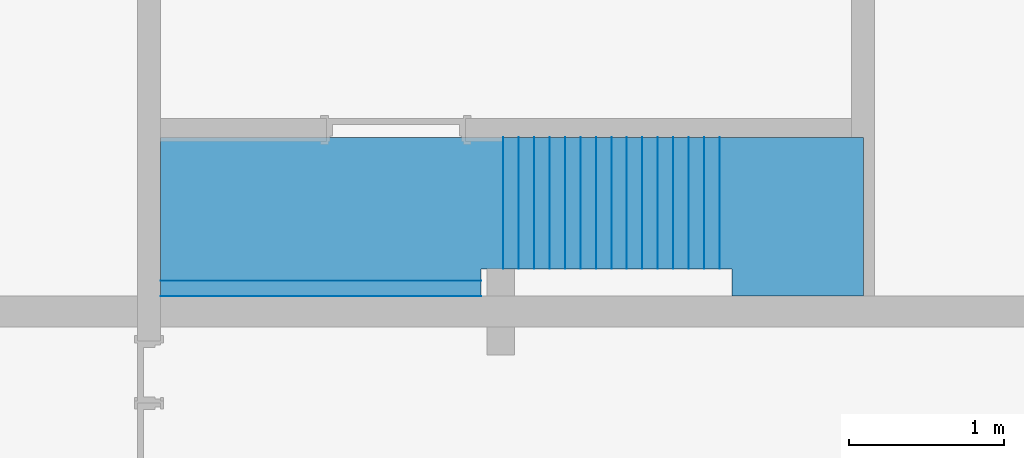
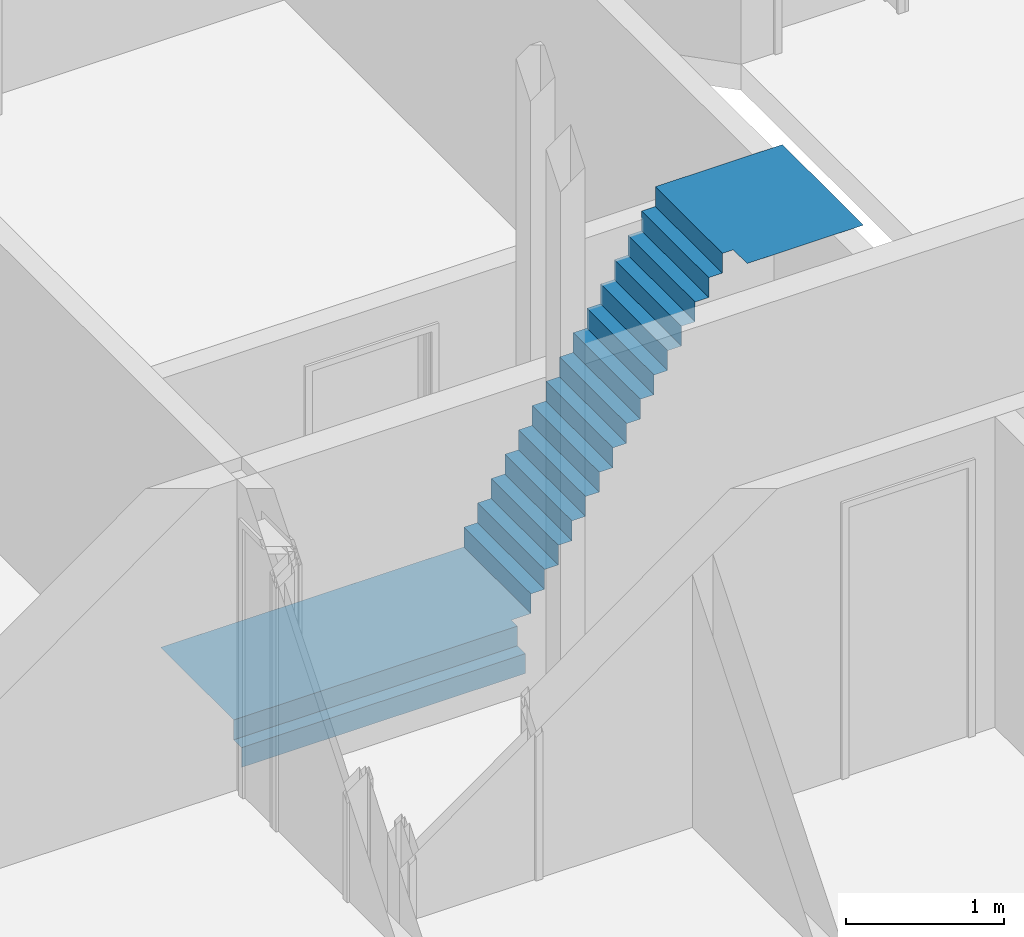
# One storey, part 34 of 48: 61 building element parts, 2 elements without a shape of their own.
"""IFC2X3 building model written with IfcOpenShell, lengths in millimetres."""

from ifc_helpers import new_model, entity, si_unit, converted_unit, derived_unit, money_unit, direction, frame, origin_with_axes, place, context, subcontext, project, spatial, open_shell, surface_model, element, aggregate, save


model = new_model("IFC2X3")

# Units and contexts
model_context = context("Model", 3, precision=0.01, world=origin_with_axes(), true_north=direction((0.0, 1.0)))
body_context = subcontext(model_context, "Body", "Model", "MODEL_VIEW")
ifc_project = project(units=[si_unit("LENGTHUNIT", "METRE", prefix="MILLI"), si_unit("AREAUNIT", "SQUARE_METRE"), si_unit("VOLUMEUNIT", "CUBIC_METRE"), converted_unit("PLANEANGLEUNIT", "DEGREE", entity("IfcPlaneAngleMeasure", 0.0174532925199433), si_unit("PLANEANGLEUNIT", "RADIAN"), dimensions=[0, 0, 0, 0, 0, 0, 0]), money_unit("USD"), converted_unit("TIMEUNIT", "Year", entity("IfcTimeMeasure", 31557600.0), si_unit("TIMEUNIT", "SECOND"), dimensions=[0, 0, 1, 0, 0, 0, 0]), si_unit("MASSUNIT", "GRAM", prefix="KILO"), si_unit("THERMODYNAMICTEMPERATUREUNIT", "DEGREE_CELSIUS"), si_unit("LUMINOUSINTENSITYUNIT", "LUMEN"), si_unit("ENERGYUNIT", "JOULE", prefix="MEGA"), derived_unit("THERMALCONDUCTANCEUNIT", [(si_unit("POWERUNIT", "WATT"), 1), (si_unit("LENGTHUNIT", "METRE"), -1), (si_unit("THERMODYNAMICTEMPERATUREUNIT", "KELVIN"), -1)]), derived_unit("SPECIFICHEATCAPACITYUNIT", [(si_unit("ENERGYUNIT", "JOULE"), 1), (si_unit("MASSUNIT", "GRAM", prefix="KILO"), -1), (si_unit("THERMODYNAMICTEMPERATUREUNIT", "KELVIN"), -1)]), derived_unit("MASSDENSITYUNIT", [(si_unit("MASSUNIT", "GRAM", prefix="KILO"), 1), (si_unit("VOLUMEUNIT", "CUBIC_METRE"), -1)])], contexts=[model_context])

# Site, building, storey
site_placement = place(None, origin_with_axes())
site = spatial("IfcSite", under=ifc_project, at=site_placement, Name="Site", CompositionType="ELEMENT")
building_placement = place(site_placement, origin_with_axes())
building = spatial("IfcBuilding", under=site, at=building_placement, Name="Building", CompositionType="ELEMENT")
storey_placement = place(building_placement, frame((0.0, 0.0, 3300.0), z_axis=(0.0, 0.0, 1.0), x_axis=(1.0, 0.0, 0.0)))
storey = spatial("IfcBuildingStorey", under=building, at=storey_placement, Name="1 ETG", CompositionType="ELEMENT", Elevation=3300.0)

# Stair, building element parts
stair_1_placement = place(storey_placement, frame((19494.96070329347, 14599.87497638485, 0.0), z_axis=(0.0, 0.0, 1.0), x_axis=(1.0, 0.0, 0.0)))
stair_1 = element("IfcStair", 1, at=stair_1_placement, inside=storey, Name="STAIR - 001", ShapeType="NOTDEFINED")
building_element_part_1_placement = place(stair_1_placement, origin_with_axes())
building_element_part_1 = element("IfcBuildingElementPart", 2, at=building_element_part_1_placement, context=body_context, shape_type="SurfaceModel", body=[
    surface_model("IfcShellBasedSurfaceModel", [(-1478.890909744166, 1025.673860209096, 458.8235294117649), (-1478.890909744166, 175.6738602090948, 458.8235294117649), (-1478.890909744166, 175.6738602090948, 305.8823529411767), (-1478.890909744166, 1025.673860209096, 305.8823529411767)], [open_shell([[[0, 1, 2, 3]]])]),
])
building_element_part_2_placement = place(stair_1_placement, origin_with_axes())
building_element_part_2 = element("IfcBuildingElementPart", 3, at=building_element_part_2_placement, context=body_context, shape_type="SurfaceModel", body=[
    surface_model("IfcShellBasedSurfaceModel", [(-1378.890909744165, 1025.673860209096, 611.764705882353), (-1378.890909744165, 175.6738602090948, 611.764705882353), (-1378.890909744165, 175.6738602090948, 458.8235294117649), (-1378.890909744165, 1025.673860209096, 458.8235294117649)], [open_shell([[[0, 1, 2, 3]]])]),
])
building_element_part_3_placement = place(stair_1_placement, origin_with_axes())
building_element_part_3 = element("IfcBuildingElementPart", 4, at=building_element_part_3_placement, context=body_context, shape_type="SurfaceModel", body=[
    surface_model("IfcShellBasedSurfaceModel", [(-1278.890909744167, 1025.673860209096, 764.705882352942), (-1278.890909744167, 175.6738602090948, 764.705882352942), (-1278.890909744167, 175.6738602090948, 611.7647058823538), (-1278.890909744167, 1025.673860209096, 611.7647058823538)], [open_shell([[[0, 1, 2, 3]]])]),
])
building_element_part_4_placement = place(stair_1_placement, origin_with_axes())
building_element_part_4 = element("IfcBuildingElementPart", 5, at=building_element_part_4_placement, context=body_context, shape_type="SurfaceModel", body=[
    surface_model("IfcShellBasedSurfaceModel", [(-1078.890909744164, 1025.673860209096, 1070.588235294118), (-1078.890909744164, 175.6738602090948, 1070.588235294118), (-1078.890909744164, 175.6738602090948, 917.6470588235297), (-1078.890909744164, 1025.673860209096, 917.6470588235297)], [open_shell([[[0, 1, 2, 3]]])]),
])
building_element_part_5_placement = place(stair_1_placement, origin_with_axes())
building_element_part_5 = element("IfcBuildingElementPart", 6, at=building_element_part_5_placement, context=body_context, shape_type="SurfaceModel", body=[
    surface_model("IfcShellBasedSurfaceModel", [(-1178.890909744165, 1025.673860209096, 917.6470588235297), (-1178.890909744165, 175.6738602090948, 917.6470588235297), (-1178.890909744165, 175.6738602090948, 764.7058823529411), (-1178.890909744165, 1025.673860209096, 764.7058823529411)], [open_shell([[[0, 1, 2, 3]]])]),
])
building_element_part_6_placement = place(stair_1_placement, origin_with_axes())
building_element_part_6 = element("IfcBuildingElementPart", 7, at=building_element_part_6_placement, context=body_context, shape_type="SurfaceModel", body=[
    surface_model("IfcShellBasedSurfaceModel", [(-978.8909097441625, 1025.673860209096, 1223.529411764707), (-978.8909097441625, 175.6738602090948, 1223.529411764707), (-978.8909097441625, 175.6738602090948, 1070.588235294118), (-978.8909097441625, 1025.673860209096, 1070.588235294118)], [open_shell([[[0, 1, 2, 3]]])]),
])
building_element_part_7_placement = place(stair_1_placement, origin_with_axes())
building_element_part_7 = element("IfcBuildingElementPart", 8, at=building_element_part_7_placement, context=body_context, shape_type="SurfaceModel", body=[
    surface_model("IfcShellBasedSurfaceModel", [(-878.8909097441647, 1025.673860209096, 1376.470588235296), (-878.8909097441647, 175.6738602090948, 1376.470588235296), (-878.8909097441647, 175.6738602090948, 1223.529411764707), (-878.8909097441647, 1025.673860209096, 1223.529411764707)], [open_shell([[[0, 1, 2, 3]]])]),
])
building_element_part_8_placement = place(stair_1_placement, origin_with_axes())
building_element_part_8 = element("IfcBuildingElementPart", 9, at=building_element_part_8_placement, context=body_context, shape_type="SurfaceModel", body=[
    surface_model("IfcShellBasedSurfaceModel", [(-678.8909097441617, 1025.673860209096, 1682.352941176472), (-678.8909097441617, 175.6738602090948, 1682.352941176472), (-678.8909097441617, 175.6738602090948, 1529.411764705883), (-678.8909097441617, 1025.673860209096, 1529.411764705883)], [open_shell([[[0, 1, 2, 3]]])]),
])
building_element_part_9_placement = place(stair_1_placement, origin_with_axes())
building_element_part_9 = element("IfcBuildingElementPart", 10, at=building_element_part_9_placement, context=body_context, shape_type="SurfaceModel", body=[
    surface_model("IfcShellBasedSurfaceModel", [(-778.8909097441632, 1025.673860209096, 1529.411764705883), (-778.8909097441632, 175.6738602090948, 1529.411764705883), (-778.8909097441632, 175.6738602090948, 1376.470588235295), (-778.8909097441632, 1025.673860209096, 1376.470588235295)], [open_shell([[[0, 1, 2, 3]]])]),
])
building_element_part_10_placement = place(stair_1_placement, origin_with_axes())
building_element_part_10 = element("IfcBuildingElementPart", 11, at=building_element_part_10_placement, context=body_context, shape_type="SurfaceModel", body=[
    surface_model("IfcShellBasedSurfaceModel", [(-578.8909097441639, 1025.673860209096, 1835.29411764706), (-578.8909097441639, 175.6738602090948, 1835.29411764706), (-578.8909097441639, 175.6738602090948, 1682.352941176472), (-578.8909097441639, 1025.673860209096, 1682.352941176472)], [open_shell([[[0, 1, 2, 3]]])]),
])
building_element_part_11_placement = place(stair_1_placement, origin_with_axes())
building_element_part_11 = element("IfcBuildingElementPart", 12, at=building_element_part_11_placement, context=body_context, shape_type="SurfaceModel", body=[
    surface_model("IfcShellBasedSurfaceModel", [(-478.8909097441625, 1025.673860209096, 1988.235294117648), (-478.8909097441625, 175.6738602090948, 1988.235294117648), (-478.8909097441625, 175.6738602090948, 1835.294117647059), (-478.8909097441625, 1025.673860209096, 1835.294117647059)], [open_shell([[[0, 1, 2, 3]]])]),
])
building_element_part_12_placement = place(stair_1_placement, origin_with_axes())
building_element_part_12 = element("IfcBuildingElementPart", 13, at=building_element_part_12_placement, context=body_context, shape_type="SurfaceModel", body=[
    surface_model("IfcShellBasedSurfaceModel", [(-378.890909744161, 1025.673860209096, 2141.176470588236), (-378.890909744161, 175.6738602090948, 2141.176470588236), (-378.890909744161, 175.6738602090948, 1988.235294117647), (-378.890909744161, 1025.673860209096, 1988.235294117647)], [open_shell([[[0, 1, 2, 3]]])]),
])
building_element_part_13_placement = place(stair_1_placement, origin_with_axes())
building_element_part_13 = element("IfcBuildingElementPart", 14, at=building_element_part_13_placement, context=body_context, shape_type="SurfaceModel", body=[
    surface_model("IfcShellBasedSurfaceModel", [(-278.8909097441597, 1025.673860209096, 2294.117647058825), (-278.8909097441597, 175.6738602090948, 2294.117647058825), (-278.8909097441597, 175.6738602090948, 2141.176470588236), (-278.8909097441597, 1025.673860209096, 2141.176470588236)], [open_shell([[[0, 1, 2, 3]]])]),
])
building_element_part_14_placement = place(stair_1_placement, origin_with_axes())
building_element_part_14 = element("IfcBuildingElementPart", 15, at=building_element_part_14_placement, context=body_context, shape_type="SurfaceModel", body=[
    surface_model("IfcShellBasedSurfaceModel", [(-178.8909097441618, 1025.673860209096, 2447.058823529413), (-178.8909097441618, 175.6738602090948, 2447.058823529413), (-178.8909097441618, 175.6738602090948, 2294.117647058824), (-178.8909097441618, 1025.673860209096, 2294.117647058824)], [open_shell([[[0, 1, 2, 3]]])]),
])
building_element_part_15_placement = place(stair_1_placement, origin_with_axes())
building_element_part_15 = element("IfcBuildingElementPart", 16, at=building_element_part_15_placement, context=body_context, shape_type="SurfaceModel", body=[
    surface_model("IfcShellBasedSurfaceModel", [(-78.89090974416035, 1025.673860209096, 2600.0), (-78.89090974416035, 175.6738602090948, 2600.0), (-78.89090974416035, 175.6738602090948, 2447.058823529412), (-78.89090974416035, 1025.673860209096, 2447.058823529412)], [open_shell([[[0, 1, 2, 3]]])]),
])
building_element_part_16_placement = place(stair_1_placement, origin_with_axes())
building_element_part_16 = element("IfcBuildingElementPart", 17, at=building_element_part_16_placement, context=body_context, shape_type="SurfaceModel", body=[
    surface_model("IfcShellBasedSurfaceModel", [(-3694.960703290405, 100.0000000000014, 305.8823529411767), (-3694.960703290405, 1025.673860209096, 305.8823529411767), (-1478.890909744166, 1025.673860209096, 305.8823529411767), (-1478.890909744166, 175.6738602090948, 305.8823529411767), (-1621.344079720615, 175.6738602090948, 305.8823529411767), (-1621.344079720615, 100.0000000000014, 305.8823529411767)], [open_shell([[[0, 1, 2, 3, 4, 5]]])]),
])
building_element_part_17_placement = place(stair_1_placement, origin_with_axes())
building_element_part_17 = element("IfcBuildingElementPart", 18, at=building_element_part_17_placement, context=body_context, shape_type="SurfaceModel", body=[
    surface_model("IfcShellBasedSurfaceModel", [(-1378.890908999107, 1025.673860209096, 458.8235294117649), (-1378.890908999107, 175.6738602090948, 458.8235294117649), (-1478.890909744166, 175.6738602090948, 458.8235294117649), (-1478.890909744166, 1025.673860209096, 458.8235294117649)], [open_shell([[[0, 1, 2, 3]]])]),
])
building_element_part_18_placement = place(stair_1_placement, origin_with_axes())
building_element_part_18 = element("IfcBuildingElementPart", 19, at=building_element_part_18_placement, context=body_context, shape_type="SurfaceModel", body=[
    surface_model("IfcShellBasedSurfaceModel", [(-1378.890908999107, 1025.673860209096, 611.764705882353), (-1278.890909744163, 1025.673860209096, 611.764705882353), (-1278.890909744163, 175.6738602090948, 611.764705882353), (-1378.890908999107, 175.6738602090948, 611.764705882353)], [open_shell([[[0, 1, 2, 3]]])]),
])
building_element_part_19_placement = place(stair_1_placement, origin_with_axes())
building_element_part_19 = element("IfcBuildingElementPart", 20, at=building_element_part_19_placement, context=body_context, shape_type="SurfaceModel", body=[
    surface_model("IfcShellBasedSurfaceModel", [(-1178.890908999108, 1025.673860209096, 917.6470588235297), (-1078.890909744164, 1025.673860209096, 917.6470588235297), (-1078.890909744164, 175.6738602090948, 917.6470588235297), (-1178.890908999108, 175.6738602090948, 917.6470588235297)], [open_shell([[[0, 1, 2, 3]]])]),
])
building_element_part_20_placement = place(stair_1_placement, origin_with_axes())
building_element_part_20 = element("IfcBuildingElementPart", 21, at=building_element_part_20_placement, context=body_context, shape_type="SurfaceModel", body=[
    surface_model("IfcShellBasedSurfaceModel", [(-1078.890908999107, 1025.673860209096, 1070.588235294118), (-978.8909097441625, 1025.673860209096, 1070.588235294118), (-978.8909097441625, 175.6738602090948, 1070.588235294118), (-1078.890908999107, 175.6738602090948, 1070.588235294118)], [open_shell([[[0, 1, 2, 3]]])]),
])
building_element_part_21_placement = place(stair_1_placement, origin_with_axes())
building_element_part_21 = element("IfcBuildingElementPart", 22, at=building_element_part_21_placement, context=body_context, shape_type="SurfaceModel", body=[
    surface_model("IfcShellBasedSurfaceModel", [(-1278.890908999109, 1025.673860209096, 764.7058823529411), (-1178.890909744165, 1025.673860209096, 764.7058823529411), (-1178.890909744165, 175.6738602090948, 764.7058823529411), (-1278.890908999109, 175.6738602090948, 764.7058823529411)], [open_shell([[[0, 1, 2, 3]]])]),
])
building_element_part_22_placement = place(stair_1_placement, origin_with_axes())
building_element_part_22 = element("IfcBuildingElementPart", 23, at=building_element_part_22_placement, context=body_context, shape_type="SurfaceModel", body=[
    surface_model("IfcShellBasedSurfaceModel", [(-978.8909089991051, 1025.673860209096, 1223.529411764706), (-878.890909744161, 1025.673860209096, 1223.529411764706), (-878.890909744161, 175.6738602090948, 1223.529411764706), (-978.8909089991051, 175.6738602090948, 1223.529411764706)], [open_shell([[[0, 1, 2, 3]]])]),
])
building_element_part_23_placement = place(stair_1_placement, origin_with_axes())
building_element_part_23 = element("IfcBuildingElementPart", 24, at=building_element_part_23_placement, context=body_context, shape_type="SurfaceModel", body=[
    surface_model("IfcShellBasedSurfaceModel", [(-878.8909089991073, 1025.673860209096, 1376.470588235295), (-778.8909097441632, 1025.673860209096, 1376.470588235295), (-778.8909097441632, 175.6738602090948, 1376.470588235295), (-878.8909089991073, 175.6738602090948, 1376.470588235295)], [open_shell([[[0, 1, 2, 3]]])]),
])
building_element_part_24_placement = place(stair_1_placement, origin_with_axes())
building_element_part_24 = element("IfcBuildingElementPart", 25, at=building_element_part_24_placement, context=body_context, shape_type="SurfaceModel", body=[
    surface_model("IfcShellBasedSurfaceModel", [(-778.8909089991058, 1025.673860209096, 1529.411764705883), (-678.8909097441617, 1025.673860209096, 1529.411764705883), (-678.8909097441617, 175.6738602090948, 1529.411764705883), (-778.8909089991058, 175.6738602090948, 1529.411764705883)], [open_shell([[[0, 1, 2, 3]]])]),
])
building_element_part_25_placement = place(stair_1_placement, origin_with_axes())
building_element_part_25 = element("IfcBuildingElementPart", 26, at=building_element_part_25_placement, context=body_context, shape_type="SurfaceModel", body=[
    surface_model("IfcShellBasedSurfaceModel", [(-678.8909089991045, 1025.673860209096, 1682.352941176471), (-578.8909097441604, 1025.673860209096, 1682.352941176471), (-578.8909097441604, 175.6738602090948, 1682.352941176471), (-678.8909089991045, 175.6738602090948, 1682.352941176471)], [open_shell([[[0, 1, 2, 3]]])]),
])
building_element_part_26_placement = place(stair_1_placement, origin_with_axes())
building_element_part_26 = element("IfcBuildingElementPart", 27, at=building_element_part_26_placement, context=body_context, shape_type="SurfaceModel", body=[
    surface_model("IfcShellBasedSurfaceModel", [(-578.8909089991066, 1025.673860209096, 1835.294117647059), (-478.8909097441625, 1025.673860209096, 1835.294117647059), (-478.8909097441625, 175.6738602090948, 1835.294117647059), (-578.8909089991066, 175.6738602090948, 1835.294117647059)], [open_shell([[[0, 1, 2, 3]]])]),
])
building_element_part_27_placement = place(stair_1_placement, origin_with_axes())
building_element_part_27 = element("IfcBuildingElementPart", 28, at=building_element_part_27_placement, context=body_context, shape_type="SurfaceModel", body=[
    surface_model("IfcShellBasedSurfaceModel", [(-378.8909089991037, 1025.673860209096, 2141.176470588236), (-278.8909097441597, 1025.673860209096, 2141.176470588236), (-278.8909097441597, 175.6738602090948, 2141.176470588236), (-378.8909089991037, 175.6738602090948, 2141.176470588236)], [open_shell([[[0, 1, 2, 3]]])]),
])
building_element_part_28_placement = place(stair_1_placement, origin_with_axes())
building_element_part_28 = element("IfcBuildingElementPart", 29, at=building_element_part_28_placement, context=body_context, shape_type="SurfaceModel", body=[
    surface_model("IfcShellBasedSurfaceModel", [(-278.8909089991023, 1025.673860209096, 2294.117647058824), (-178.8909097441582, 1025.673860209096, 2294.117647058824), (-178.8909097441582, 175.6738602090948, 2294.117647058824), (-278.8909089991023, 175.6738602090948, 2294.117647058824)], [open_shell([[[0, 1, 2, 3]]])]),
])
building_element_part_29_placement = place(stair_1_placement, origin_with_axes())
building_element_part_29 = element("IfcBuildingElementPart", 30, at=building_element_part_29_placement, context=body_context, shape_type="SurfaceModel", body=[
    surface_model("IfcShellBasedSurfaceModel", [(-478.8909089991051, 1025.673860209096, 1988.235294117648), (-378.890909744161, 1025.673860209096, 1988.235294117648), (-378.890909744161, 175.6738602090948, 1988.235294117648), (-478.8909089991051, 175.6738602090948, 1988.235294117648)], [open_shell([[[0, 1, 2, 3]]])]),
])
building_element_part_30_placement = place(stair_1_placement, origin_with_axes())
building_element_part_30 = element("IfcBuildingElementPart", 31, at=building_element_part_30_placement, context=body_context, shape_type="SurfaceModel", body=[
    surface_model("IfcShellBasedSurfaceModel", [(850.0000038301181, 1025.673860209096, 2600.0), (850.0000038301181, 100.000007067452, 2600.0), (850.0000038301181, 0.0, 2600.0), (-2.750116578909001e-06, 0.0, 2600.0), (-2.750116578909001e-06, 100.000007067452, 2600.0), (-2.750116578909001e-06, 175.6738536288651, 2600.0), (-78.89090974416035, 175.6738536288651, 2600.0), (-78.89090974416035, 1025.673860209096, 2600.0)], [open_shell([[[0, 1, 2, 3, 4, 5, 6, 7]]])]),
])
building_element_part_31_placement = place(stair_1_placement, origin_with_axes())
building_element_part_31 = element("IfcBuildingElementPart", 32, at=building_element_part_31_placement, context=body_context, shape_type="SurfaceModel", body=[
    surface_model("IfcShellBasedSurfaceModel", [(-178.8909089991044, 1025.673860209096, 2447.058823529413), (-78.89090974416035, 1025.673860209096, 2447.058823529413), (-78.89090974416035, 175.6738602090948, 2447.058823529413), (-178.8909089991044, 175.6738602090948, 2447.058823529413)], [open_shell([[[0, 1, 2, 3]]])]),
])
aggregate(stair_1, [building_element_part_1, building_element_part_2, building_element_part_3, building_element_part_4, building_element_part_5, building_element_part_6, building_element_part_7, building_element_part_8, building_element_part_9, building_element_part_10, building_element_part_11, building_element_part_12, building_element_part_13, building_element_part_14, building_element_part_15, building_element_part_16, building_element_part_17, building_element_part_18, building_element_part_19, building_element_part_20, building_element_part_21, building_element_part_22, building_element_part_23, building_element_part_24, building_element_part_25, building_element_part_26, building_element_part_27, building_element_part_28, building_element_part_29, building_element_part_30, building_element_part_31])

stair_2_placement = place(storey_placement, frame((19494.96070329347, 14600.0, 0.0), z_axis=(0.0, 0.0, 1.0), x_axis=(1.0, 0.0, 0.0)))
stair_2 = element("IfcStair", 33, at=stair_2_placement, inside=storey, Name="STAIR - 001", ShapeType="NOTDEFINED")
building_element_part_32_placement = place(stair_2_placement, origin_with_axes())
building_element_part_32 = element("IfcBuildingElementPart", 34, at=building_element_part_32_placement, context=body_context, shape_type="SurfaceModel", body=[
    surface_model("IfcShellBasedSurfaceModel", [(-3694.960703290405, 0.0, 152.9411764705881), (-1621.344079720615, 0.0, 152.9411764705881), (-1621.344079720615, 0.0, 0.0), (-3694.960703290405, 0.0, 0.0)], [open_shell([[[0, 1, 2, 3]]])]),
])
building_element_part_33_placement = place(stair_2_placement, origin_with_axes())
building_element_part_33 = element("IfcBuildingElementPart", 35, at=building_element_part_33_placement, context=body_context, shape_type="SurfaceModel", body=[
    surface_model("IfcShellBasedSurfaceModel", [(-3694.960703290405, 100.0000000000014, 305.8823529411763), (-1621.344079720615, 100.0000000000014, 305.8823529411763), (-1621.344079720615, 100.0000000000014, 152.9411764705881), (-3694.960703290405, 100.0000000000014, 152.9411764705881)], [open_shell([[[0, 1, 2, 3]]])]),
])
building_element_part_34_placement = place(stair_2_placement, origin_with_axes())
building_element_part_34 = element("IfcBuildingElementPart", 36, at=building_element_part_34_placement, context=body_context, shape_type="SurfaceModel", body=[
    surface_model("IfcShellBasedSurfaceModel", [(-1478.890909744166, 1025.673860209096, 458.8235294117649), (-1478.890909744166, 175.6738602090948, 458.8235294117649), (-1478.890909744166, 175.6738602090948, 305.8823529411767), (-1478.890909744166, 1025.673860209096, 305.8823529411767)], [open_shell([[[0, 1, 2, 3]]])]),
])
building_element_part_35_placement = place(stair_2_placement, origin_with_axes())
building_element_part_35 = element("IfcBuildingElementPart", 37, at=building_element_part_35_placement, context=body_context, shape_type="SurfaceModel", body=[
    surface_model("IfcShellBasedSurfaceModel", [(-1378.890909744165, 1025.673860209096, 611.764705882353), (-1378.890909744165, 175.6738602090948, 611.764705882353), (-1378.890909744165, 175.6738602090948, 458.8235294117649), (-1378.890909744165, 1025.673860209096, 458.8235294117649)], [open_shell([[[0, 1, 2, 3]]])]),
])
building_element_part_36_placement = place(stair_2_placement, origin_with_axes())
building_element_part_36 = element("IfcBuildingElementPart", 38, at=building_element_part_36_placement, context=body_context, shape_type="SurfaceModel", body=[
    surface_model("IfcShellBasedSurfaceModel", [(-1278.890909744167, 1025.673860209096, 764.705882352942), (-1278.890909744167, 175.6738602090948, 764.705882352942), (-1278.890909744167, 175.6738602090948, 611.7647058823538), (-1278.890909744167, 1025.673860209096, 611.7647058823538)], [open_shell([[[0, 1, 2, 3]]])]),
])
building_element_part_37_placement = place(stair_2_placement, origin_with_axes())
building_element_part_37 = element("IfcBuildingElementPart", 39, at=building_element_part_37_placement, context=body_context, shape_type="SurfaceModel", body=[
    surface_model("IfcShellBasedSurfaceModel", [(-1178.890909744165, 1025.673860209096, 917.6470588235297), (-1178.890909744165, 175.6738602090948, 917.6470588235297), (-1178.890909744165, 175.6738602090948, 764.7058823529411), (-1178.890909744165, 1025.673860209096, 764.7058823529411)], [open_shell([[[0, 1, 2, 3]]])]),
])
building_element_part_38_placement = place(stair_2_placement, origin_with_axes())
building_element_part_38 = element("IfcBuildingElementPart", 40, at=building_element_part_38_placement, context=body_context, shape_type="SurfaceModel", body=[
    surface_model("IfcShellBasedSurfaceModel", [(-1078.890909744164, 1025.673860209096, 1070.588235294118), (-1078.890909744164, 175.6738602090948, 1070.588235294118), (-1078.890909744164, 175.6738602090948, 917.6470588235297), (-1078.890909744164, 1025.673860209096, 917.6470588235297)], [open_shell([[[0, 1, 2, 3]]])]),
])
building_element_part_39_placement = place(stair_2_placement, origin_with_axes())
building_element_part_39 = element("IfcBuildingElementPart", 41, at=building_element_part_39_placement, context=body_context, shape_type="SurfaceModel", body=[
    surface_model("IfcShellBasedSurfaceModel", [(-978.8909097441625, 1025.673860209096, 1223.529411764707), (-978.8909097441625, 175.6738602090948, 1223.529411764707), (-978.8909097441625, 175.6738602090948, 1070.588235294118), (-978.8909097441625, 1025.673860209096, 1070.588235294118)], [open_shell([[[0, 1, 2, 3]]])]),
])
building_element_part_40_placement = place(stair_2_placement, origin_with_axes())
building_element_part_40 = element("IfcBuildingElementPart", 42, at=building_element_part_40_placement, context=body_context, shape_type="SurfaceModel", body=[
    surface_model("IfcShellBasedSurfaceModel", [(-878.8909097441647, 1025.673860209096, 1376.470588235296), (-878.8909097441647, 175.6738602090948, 1376.470588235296), (-878.8909097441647, 175.6738602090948, 1223.529411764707), (-878.8909097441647, 1025.673860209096, 1223.529411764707)], [open_shell([[[0, 1, 2, 3]]])]),
])
building_element_part_41_placement = place(stair_2_placement, origin_with_axes())
building_element_part_41 = element("IfcBuildingElementPart", 43, at=building_element_part_41_placement, context=body_context, shape_type="SurfaceModel", body=[
    surface_model("IfcShellBasedSurfaceModel", [(-778.8909097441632, 1025.673860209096, 1529.411764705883), (-778.8909097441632, 175.6738602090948, 1529.411764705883), (-778.8909097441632, 175.6738602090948, 1376.470588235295), (-778.8909097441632, 1025.673860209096, 1376.470588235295)], [open_shell([[[0, 1, 2, 3]]])]),
])
building_element_part_42_placement = place(stair_2_placement, origin_with_axes())
building_element_part_42 = element("IfcBuildingElementPart", 44, at=building_element_part_42_placement, context=body_context, shape_type="SurfaceModel", body=[
    surface_model("IfcShellBasedSurfaceModel", [(-678.8909097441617, 1025.673860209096, 1682.352941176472), (-678.8909097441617, 175.6738602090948, 1682.352941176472), (-678.8909097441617, 175.6738602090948, 1529.411764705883), (-678.8909097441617, 1025.673860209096, 1529.411764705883)], [open_shell([[[0, 1, 2, 3]]])]),
])
building_element_part_43_placement = place(stair_2_placement, origin_with_axes())
building_element_part_43 = element("IfcBuildingElementPart", 45, at=building_element_part_43_placement, context=body_context, shape_type="SurfaceModel", body=[
    surface_model("IfcShellBasedSurfaceModel", [(-578.8909097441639, 1025.673860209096, 1835.29411764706), (-578.8909097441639, 175.6738602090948, 1835.29411764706), (-578.8909097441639, 175.6738602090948, 1682.352941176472), (-578.8909097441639, 1025.673860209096, 1682.352941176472)], [open_shell([[[0, 1, 2, 3]]])]),
])
building_element_part_44_placement = place(stair_2_placement, origin_with_axes())
building_element_part_44 = element("IfcBuildingElementPart", 46, at=building_element_part_44_placement, context=body_context, shape_type="SurfaceModel", body=[
    surface_model("IfcShellBasedSurfaceModel", [(-378.890909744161, 1025.673860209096, 2141.176470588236), (-378.890909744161, 175.6738602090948, 2141.176470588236), (-378.890909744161, 175.6738602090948, 1988.235294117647), (-378.890909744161, 1025.673860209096, 1988.235294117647)], [open_shell([[[0, 1, 2, 3]]])]),
])
building_element_part_45_placement = place(stair_2_placement, origin_with_axes())
building_element_part_45 = element("IfcBuildingElementPart", 47, at=building_element_part_45_placement, context=body_context, shape_type="SurfaceModel", body=[
    surface_model("IfcShellBasedSurfaceModel", [(-278.8909097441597, 1025.673860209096, 2294.117647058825), (-278.8909097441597, 175.6738602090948, 2294.117647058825), (-278.8909097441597, 175.6738602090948, 2141.176470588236), (-278.8909097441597, 1025.673860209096, 2141.176470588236)], [open_shell([[[0, 1, 2, 3]]])]),
])
building_element_part_46_placement = place(stair_2_placement, origin_with_axes())
building_element_part_46 = element("IfcBuildingElementPart", 48, at=building_element_part_46_placement, context=body_context, shape_type="SurfaceModel", body=[
    surface_model("IfcShellBasedSurfaceModel", [(-478.8909097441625, 1025.673860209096, 1988.235294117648), (-478.8909097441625, 175.6738602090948, 1988.235294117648), (-478.8909097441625, 175.6738602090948, 1835.294117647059), (-478.8909097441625, 1025.673860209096, 1835.294117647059)], [open_shell([[[0, 1, 2, 3]]])]),
])
building_element_part_47_placement = place(stair_2_placement, origin_with_axes())
building_element_part_47 = element("IfcBuildingElementPart", 49, at=building_element_part_47_placement, context=body_context, shape_type="SurfaceModel", body=[
    surface_model("IfcShellBasedSurfaceModel", [(-78.89090974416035, 1025.673860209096, 2600.0), (-78.89090974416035, 175.6738602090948, 2600.0), (-78.89090974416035, 175.6738602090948, 2447.058823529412), (-78.89090974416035, 1025.673860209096, 2447.058823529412)], [open_shell([[[0, 1, 2, 3]]])]),
])
building_element_part_48_placement = place(stair_2_placement, origin_with_axes())
building_element_part_48 = element("IfcBuildingElementPart", 50, at=building_element_part_48_placement, context=body_context, shape_type="SurfaceModel", body=[
    surface_model("IfcShellBasedSurfaceModel", [(-3694.960703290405, 100.0000000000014, 305.8823529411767), (-3694.960703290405, 1025.673860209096, 305.8823529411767), (-1478.890909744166, 1025.673860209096, 305.8823529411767), (-1478.890909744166, 175.6738602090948, 305.8823529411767), (-1621.344079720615, 175.6738602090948, 305.8823529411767), (-1621.344079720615, 100.0000000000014, 305.8823529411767)], [open_shell([[[0, 1, 2, 3, 4, 5]]])]),
])
building_element_part_49_placement = place(stair_2_placement, origin_with_axes())
building_element_part_49 = element("IfcBuildingElementPart", 51, at=building_element_part_49_placement, context=body_context, shape_type="SurfaceModel", body=[
    surface_model("IfcShellBasedSurfaceModel", [(-178.8909097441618, 1025.673860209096, 2447.058823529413), (-178.8909097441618, 175.6738602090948, 2447.058823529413), (-178.8909097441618, 175.6738602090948, 2294.117647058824), (-178.8909097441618, 1025.673860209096, 2294.117647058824)], [open_shell([[[0, 1, 2, 3]]])]),
])
building_element_part_50_placement = place(stair_2_placement, origin_with_axes())
building_element_part_50 = element("IfcBuildingElementPart", 52, at=building_element_part_50_placement, context=body_context, shape_type="SurfaceModel", body=[
    surface_model("IfcShellBasedSurfaceModel", [(-3694.960703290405, 0.0, 152.9411764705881), (-3694.960703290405, 100.0000000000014, 152.9411764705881), (-1621.344079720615, 100.0000000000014, 152.9411764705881), (-1621.344079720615, 0.0, 152.9411764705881)], [open_shell([[[0, 1, 2, 3]]])]),
])
building_element_part_51_placement = place(stair_2_placement, origin_with_axes())
building_element_part_51 = element("IfcBuildingElementPart", 53, at=building_element_part_51_placement, context=body_context, shape_type="SurfaceModel", body=[
    surface_model("IfcShellBasedSurfaceModel", [(-1378.890908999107, 1025.673860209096, 458.8235294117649), (-1378.890908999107, 175.6738602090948, 458.8235294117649), (-1478.890909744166, 175.6738602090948, 458.8235294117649), (-1478.890909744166, 1025.673860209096, 458.8235294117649)], [open_shell([[[0, 1, 2, 3]]])]),
])
building_element_part_52_placement = place(stair_2_placement, origin_with_axes())
building_element_part_52 = element("IfcBuildingElementPart", 54, at=building_element_part_52_placement, context=body_context, shape_type="SurfaceModel", body=[
    surface_model("IfcShellBasedSurfaceModel", [(-1378.890908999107, 1025.673860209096, 611.764705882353), (-1278.890909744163, 1025.673860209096, 611.764705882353), (-1278.890909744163, 175.6738602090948, 611.764705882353), (-1378.890908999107, 175.6738602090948, 611.764705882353)], [open_shell([[[0, 1, 2, 3]]])]),
])
building_element_part_53_placement = place(stair_2_placement, origin_with_axes())
building_element_part_53 = element("IfcBuildingElementPart", 55, at=building_element_part_53_placement, context=body_context, shape_type="SurfaceModel", body=[
    surface_model("IfcShellBasedSurfaceModel", [(-1278.890908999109, 1025.673860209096, 764.7058823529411), (-1178.890909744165, 1025.673860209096, 764.7058823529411), (-1178.890909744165, 175.6738602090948, 764.7058823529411), (-1278.890908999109, 175.6738602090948, 764.7058823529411)], [open_shell([[[0, 1, 2, 3]]])]),
])
building_element_part_54_placement = place(stair_2_placement, origin_with_axes())
building_element_part_54 = element("IfcBuildingElementPart", 56, at=building_element_part_54_placement, context=body_context, shape_type="SurfaceModel", body=[
    surface_model("IfcShellBasedSurfaceModel", [(-1178.890908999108, 1025.673860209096, 917.6470588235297), (-1078.890909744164, 1025.673860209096, 917.6470588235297), (-1078.890909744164, 175.6738602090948, 917.6470588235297), (-1178.890908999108, 175.6738602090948, 917.6470588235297)], [open_shell([[[0, 1, 2, 3]]])]),
])
building_element_part_55_placement = place(stair_2_placement, origin_with_axes())
building_element_part_55 = element("IfcBuildingElementPart", 57, at=building_element_part_55_placement, context=body_context, shape_type="SurfaceModel", body=[
    surface_model("IfcShellBasedSurfaceModel", [(-1078.890908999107, 1025.673860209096, 1070.588235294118), (-978.8909097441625, 1025.673860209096, 1070.588235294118), (-978.8909097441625, 175.6738602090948, 1070.588235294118), (-1078.890908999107, 175.6738602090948, 1070.588235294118)], [open_shell([[[0, 1, 2, 3]]])]),
])
building_element_part_56_placement = place(stair_2_placement, origin_with_axes())
building_element_part_56 = element("IfcBuildingElementPart", 58, at=building_element_part_56_placement, context=body_context, shape_type="SurfaceModel", body=[
    surface_model("IfcShellBasedSurfaceModel", [(-978.8909089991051, 1025.673860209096, 1223.529411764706), (-878.890909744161, 1025.673860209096, 1223.529411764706), (-878.890909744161, 175.6738602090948, 1223.529411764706), (-978.8909089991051, 175.6738602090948, 1223.529411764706)], [open_shell([[[0, 1, 2, 3]]])]),
])
building_element_part_57_placement = place(stair_2_placement, origin_with_axes())
building_element_part_57 = element("IfcBuildingElementPart", 59, at=building_element_part_57_placement, context=body_context, shape_type="SurfaceModel", body=[
    surface_model("IfcShellBasedSurfaceModel", [(-778.8909089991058, 1025.673860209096, 1529.411764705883), (-678.8909097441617, 1025.673860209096, 1529.411764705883), (-678.8909097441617, 175.6738602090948, 1529.411764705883), (-778.8909089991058, 175.6738602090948, 1529.411764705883)], [open_shell([[[0, 1, 2, 3]]])]),
])
building_element_part_58_placement = place(stair_2_placement, origin_with_axes())
building_element_part_58 = element("IfcBuildingElementPart", 60, at=building_element_part_58_placement, context=body_context, shape_type="SurfaceModel", body=[
    surface_model("IfcShellBasedSurfaceModel", [(-678.8909089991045, 1025.673860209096, 1682.352941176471), (-578.8909097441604, 1025.673860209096, 1682.352941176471), (-578.8909097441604, 175.6738602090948, 1682.352941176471), (-678.8909089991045, 175.6738602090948, 1682.352941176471)], [open_shell([[[0, 1, 2, 3]]])]),
])
building_element_part_59_placement = place(stair_2_placement, origin_with_axes())
building_element_part_59 = element("IfcBuildingElementPart", 61, at=building_element_part_59_placement, context=body_context, shape_type="SurfaceModel", body=[
    surface_model("IfcShellBasedSurfaceModel", [(-878.8909089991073, 1025.673860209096, 1376.470588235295), (-778.8909097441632, 1025.673860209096, 1376.470588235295), (-778.8909097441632, 175.6738602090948, 1376.470588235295), (-878.8909089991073, 175.6738602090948, 1376.470588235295)], [open_shell([[[0, 1, 2, 3]]])]),
])
building_element_part_60_placement = place(stair_2_placement, origin_with_axes())
building_element_part_60 = element("IfcBuildingElementPart", 62, at=building_element_part_60_placement, context=body_context, shape_type="SurfaceModel", body=[
    surface_model("IfcShellBasedSurfaceModel", [(-578.8909089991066, 1025.673860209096, 1835.294117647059), (-478.8909097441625, 1025.673860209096, 1835.294117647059), (-478.8909097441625, 175.6738602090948, 1835.294117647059), (-578.8909089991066, 175.6738602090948, 1835.294117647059)], [open_shell([[[0, 1, 2, 3]]])]),
])
building_element_part_61_placement = place(stair_2_placement, origin_with_axes())
building_element_part_61 = element("IfcBuildingElementPart", 63, at=building_element_part_61_placement, context=body_context, shape_type="SurfaceModel", body=[
    surface_model("IfcShellBasedSurfaceModel", [(850.0000038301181, 1025.673860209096, 2600.0), (850.0000038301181, 100.000007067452, 2600.0), (850.0000038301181, 0.0, 2600.0), (-2.750116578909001e-06, 0.0, 2600.0), (-2.750116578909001e-06, 100.000007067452, 2600.0), (-2.750116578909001e-06, 175.6738536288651, 2600.0), (-78.89090974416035, 175.6738536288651, 2600.0), (-78.89090974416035, 1025.673860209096, 2600.0)], [open_shell([[[0, 1, 2, 3, 4, 5, 6, 7]]])]),
])
aggregate(stair_2, [building_element_part_32, building_element_part_33, building_element_part_34, building_element_part_35, building_element_part_36, building_element_part_37, building_element_part_38, building_element_part_39, building_element_part_40, building_element_part_41, building_element_part_42, building_element_part_43, building_element_part_44, building_element_part_45, building_element_part_46, building_element_part_47, building_element_part_48, building_element_part_49, building_element_part_50, building_element_part_51, building_element_part_52, building_element_part_53, building_element_part_54, building_element_part_55, building_element_part_56, building_element_part_57, building_element_part_58, building_element_part_59, building_element_part_60, building_element_part_61])

save(model, "model.ifc")
